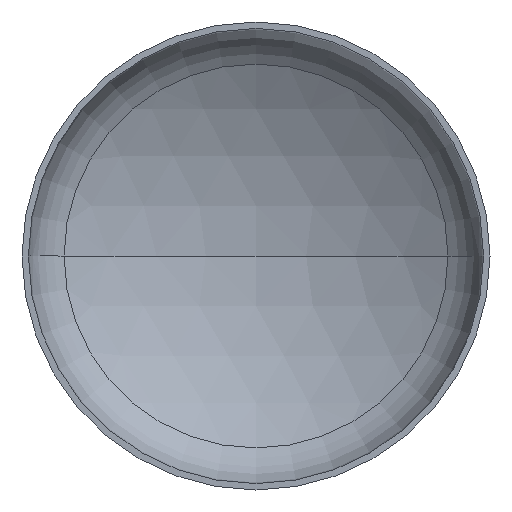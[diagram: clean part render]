
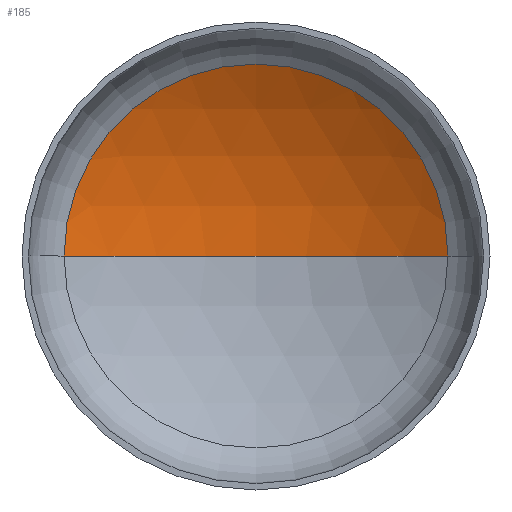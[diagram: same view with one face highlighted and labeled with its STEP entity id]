
A CAD part, front view. The second image highlights one B-rep face of the part: STEP entity #185.
In plain terms, the highlighted spherical face has radius 640 mm.
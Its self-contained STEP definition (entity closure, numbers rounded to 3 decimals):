
#1 = AXIS2_PLACEMENT_3D ( 'NONE', #191, #279, #141 ) ;
#14 = AXIS2_PLACEMENT_3D ( 'NONE', #177, #178, #356 ) ;
#28 = VERTEX_POINT ( 'NONE', #369 ) ;
#35 = ORIENTED_EDGE ( 'NONE', *, *, #345, .T. ) ;
#43 = ORIENTED_EDGE ( 'NONE', *, *, #384, .T. ) ;
#50 = CIRCLE ( 'NONE', #404, 640. ) ;
#51 = AXIS2_PLACEMENT_3D ( 'NONE', #318, #210, #297 ) ;
#71 = VERTEX_POINT ( 'NONE', #247 ) ;
#75 = EDGE_LOOP ( 'NONE', ( #100, #43, #35 ) ) ;
#95 = VERTEX_POINT ( 'NONE', #330 ) ;
#100 = ORIENTED_EDGE ( 'NONE', *, *, #382, .F. ) ;
#141 = DIRECTION ( 'NONE',  ( -1., 0., 0. ) ) ;
#177 = CARTESIAN_POINT ( 'NONE',  ( 0., 147.327, 0. ) ) ;
#178 = DIRECTION ( 'NONE',  ( 0., -1., 0. ) ) ;
#180 = CIRCLE ( 'NONE', #1, 640. ) ;
#185 = ADVANCED_FACE ( 'NONE', ( #228 ), #289, .F. ) ;
#191 = CARTESIAN_POINT ( 'NONE',  ( 0., -402.187, 0. ) ) ;
#210 = DIRECTION ( 'NONE',  ( 0., 0., -1. ) ) ;
#217 = CARTESIAN_POINT ( 'NONE',  ( 0., -402.187, 0. ) ) ;
#219 = DIRECTION ( 'NONE',  ( 0., 0., 1. ) ) ;
#228 = FACE_OUTER_BOUND ( 'NONE', #75, .T. ) ;
#247 = CARTESIAN_POINT ( 'NONE',  ( 0., 237.813, 0. ) ) ;
#279 = DIRECTION ( 'NONE',  ( 0., 0., -1. ) ) ;
#289 = SPHERICAL_SURFACE ( 'NONE', #51, 640. ) ;
#297 = DIRECTION ( 'NONE',  ( -1., 0., 0. ) ) ;
#318 = CARTESIAN_POINT ( 'NONE',  ( 0., -402.187, 0. ) ) ;
#326 = CIRCLE ( 'NONE', #14, 328.078 ) ;
#330 = CARTESIAN_POINT ( 'NONE',  ( -328.078, 147.327, 0. ) ) ;
#345 = EDGE_CURVE ( 'NONE', #28, #95, #326, .T. ) ;
#356 = DIRECTION ( 'NONE',  ( 1., 0., 0. ) ) ;
#369 = CARTESIAN_POINT ( 'NONE',  ( 328.078, 147.327, 0. ) ) ;
#380 = DIRECTION ( 'NONE',  ( 1., 0., 0. ) ) ;
#382 = EDGE_CURVE ( 'NONE', #71, #95, #50, .T. ) ;
#384 = EDGE_CURVE ( 'NONE', #71, #28, #180, .T. ) ;
#404 = AXIS2_PLACEMENT_3D ( 'NONE', #217, #219, #380 ) ;
